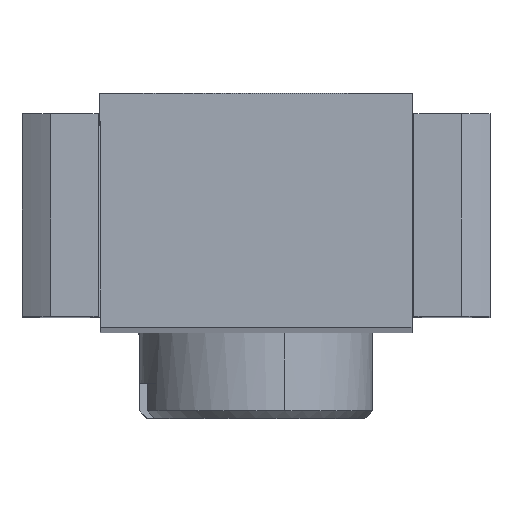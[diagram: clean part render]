
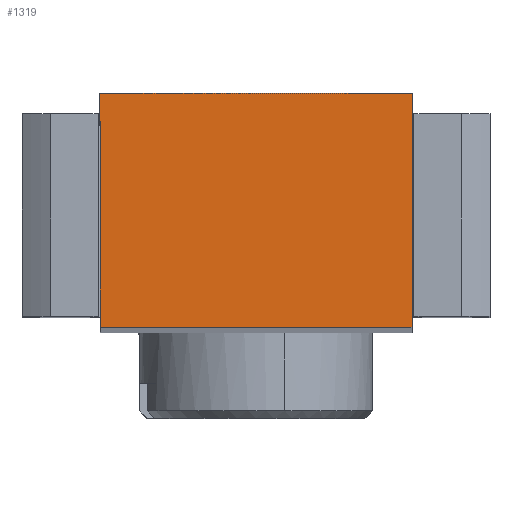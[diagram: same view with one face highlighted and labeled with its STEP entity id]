
A CAD part, top view. The second image highlights one B-rep face of the part: STEP entity #1319.
In plain terms, the highlighted planar face has unit normal (0, 0, 1).
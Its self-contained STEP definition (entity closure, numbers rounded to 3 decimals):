
#25 = CARTESIAN_POINT ( 'NONE',  ( 2., -1.53, -7.837 ) ) ;
#49 = DIRECTION ( 'NONE',  ( 1., 0., 0. ) ) ;
#69 = CARTESIAN_POINT ( 'NONE',  ( -2., -1.53, -7.837 ) ) ;
#105 = EDGE_CURVE ( 'NONE', #652, #634, #352, .T. ) ;
#209 = CARTESIAN_POINT ( 'NONE',  ( -2., 1.47, -7.837 ) ) ;
#239 = VECTOR ( 'NONE', #49, 1000. ) ;
#254 = LINE ( 'NONE', #300, #239 ) ;
#256 = VECTOR ( 'NONE', #1433, 1000. ) ;
#267 = EDGE_CURVE ( 'NONE', #634, #1020, #254, .T. ) ;
#300 = CARTESIAN_POINT ( 'NONE',  ( -2., -1.53, -7.837 ) ) ;
#311 = LINE ( 'NONE', #591, #623 ) ;
#352 = LINE ( 'NONE', #408, #359 ) ;
#359 = VECTOR ( 'NONE', #1334, 1000. ) ;
#408 = CARTESIAN_POINT ( 'NONE',  ( -2., 1.47, -7.837 ) ) ;
#452 = ORIENTED_EDGE ( 'NONE', *, *, #693, .T. ) ;
#456 = ORIENTED_EDGE ( 'NONE', *, *, #1233, .T. ) ;
#457 = ORIENTED_EDGE ( 'NONE', *, *, #105, .T. ) ;
#460 = ORIENTED_EDGE ( 'NONE', *, *, #267, .T. ) ;
#591 = CARTESIAN_POINT ( 'NONE',  ( 2., 1.47, -7.837 ) ) ;
#610 = CARTESIAN_POINT ( 'NONE',  ( 2., 1.47, -7.837 ) ) ;
#623 = VECTOR ( 'NONE', #1629, 1000. ) ;
#634 = VERTEX_POINT ( 'NONE', #69 ) ;
#644 = DIRECTION ( 'NONE',  ( 1., 0., 0. ) ) ;
#649 = DIRECTION ( 'NONE',  ( 0., 0., 1. ) ) ;
#652 = VERTEX_POINT ( 'NONE', #209 ) ;
#672 = EDGE_LOOP ( 'NONE', ( #452, #456, #457, #460 ) ) ;
#681 = CARTESIAN_POINT ( 'NONE',  ( 2., -1.53, -7.837 ) ) ;
#693 = EDGE_CURVE ( 'NONE', #1020, #1656, #311, .T. ) ;
#929 = PLANE ( 'NONE',  #1241 ) ;
#1020 = VERTEX_POINT ( 'NONE', #25 ) ;
#1233 = EDGE_CURVE ( 'NONE', #1656, #652, #1346, .T. ) ;
#1241 = AXIS2_PLACEMENT_3D ( 'NONE', #681, #649, #644 ) ;
#1319 = ADVANCED_FACE ( 'NONE', ( #1542 ), #929, .T. ) ;
#1334 = DIRECTION ( 'NONE',  ( 0., -1., 0. ) ) ;
#1346 = LINE ( 'NONE', #1489, #256 ) ;
#1433 = DIRECTION ( 'NONE',  ( -1., 0., 0. ) ) ;
#1489 = CARTESIAN_POINT ( 'NONE',  ( 2., 1.47, -7.837 ) ) ;
#1542 = FACE_OUTER_BOUND ( 'NONE', #672, .T. ) ;
#1629 = DIRECTION ( 'NONE',  ( 0., 1., 0. ) ) ;
#1656 = VERTEX_POINT ( 'NONE', #610 ) ;
